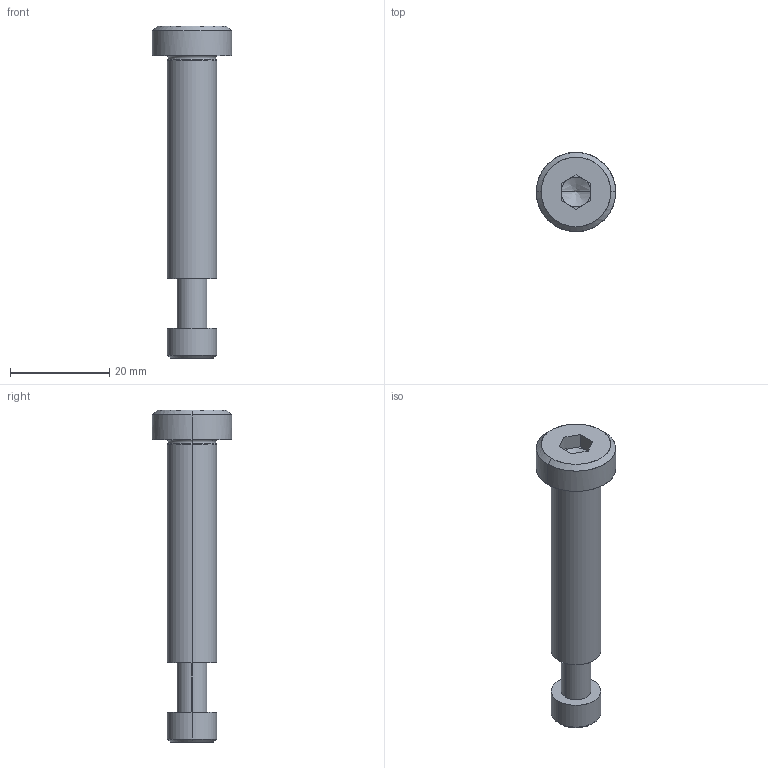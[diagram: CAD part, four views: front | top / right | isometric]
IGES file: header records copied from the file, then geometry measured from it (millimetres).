
Global section: file name: E:\UnigraphicsGraphicData\MISUMI_PRESS-PARTS\IGES\3d_sbtc10-45_05104_r00.igs; native system: NX V5.0; preprocessor: UGS NX IGES V5.0; author: MISUMI; date: 20110105.162443; units: millimetre
Bounding box: 16 x 16 x 67 mm (x, y, z)
Surface area: 3323 mm2 (no closed solid volume)
Topology: 0 solids, 0 shells, 52 faces, 280 edges, 276 vertices
Faces by surface type: bspline 52
